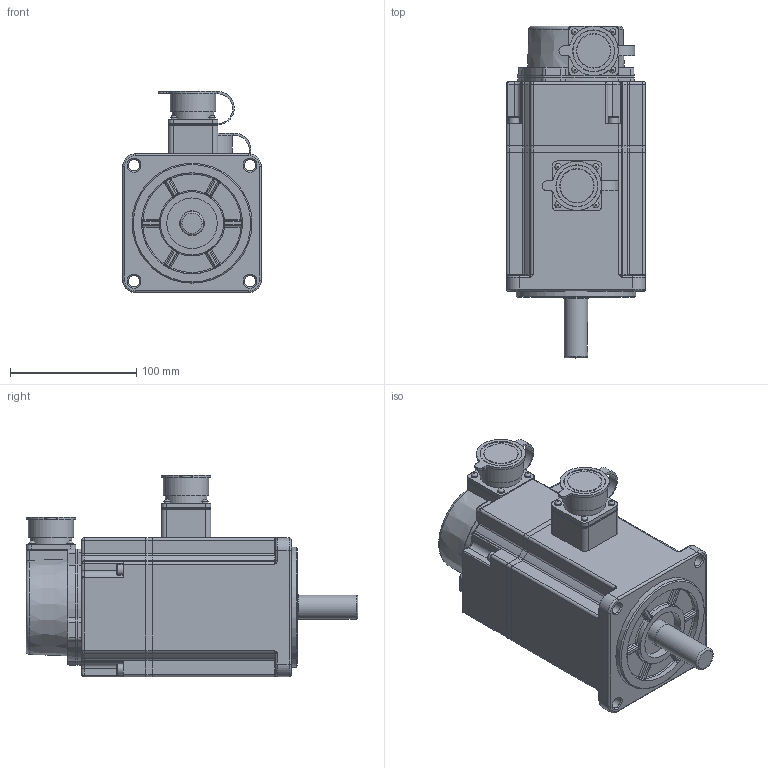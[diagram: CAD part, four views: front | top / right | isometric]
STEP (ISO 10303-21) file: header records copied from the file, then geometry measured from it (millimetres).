
FILE_DESCRIPTION(/* description */ (''),/* implementation_level */ '2;1');
FILE_NAME(/* name */ '28K6N.stp',/* time_stamp */ '2024-04-19T14:21:41+08:00',/* author */ (''),/* organization */ (''),/* preprocessor_version */ 'ST-DEVELOPER v18.1',/* originating_system */ 'SIEMENS PLM Software NX 2000',/* authorisation */ '');
FILE_SCHEMA (('AUTOMOTIVE_DESIGN { 1 0 10303 214 3 1 1 1 }'));
Length unit declared in the file: millimetre
Products named in the file (1): 92504378DBD25y9j
Bounding box: 110 x 263 x 159.5 mm (x, y, z)
Volume: 2033759.5 mm3; surface area: 251482 mm2
Topology: 23 solids, 26 shells, 1044 faces, 2433 edges, 1431 vertices
Faces by surface type: cylinder 400, plane 326, torus 108, bspline 97, cone 61, sphere 52
Full cylindrical faces by diameter (mm): 2.5 x8, 2.8 x1, 3 x4, 3.5 x1, 4 x3, 4.1 x16, 4.2 x3, 4.826 x4, 5 x17, 5.5 x3, 8.5 x4, 9 x4, 19 x1, 19.6 x1, 20 x1, 22.288 x1, 24 x1, 24.616 x1, 27 x4, 28 x2, 30 x3, 33 x6, 35 x1, 36 x2, 40 x2, 84 x1, 95 x1, 100 x1, 101.4 x1, 104 x3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
Entity records: 31770 total; most frequent: CARTESIAN_POINT 9202, DIRECTION 4865, ORIENTED_EDGE 4276, EDGE_CURVE 2138, AXIS2_PLACEMENT_3D 2014, VERTEX_POINT 1367, EDGE_LOOP 1336, ADVANCED_FACE 1044
